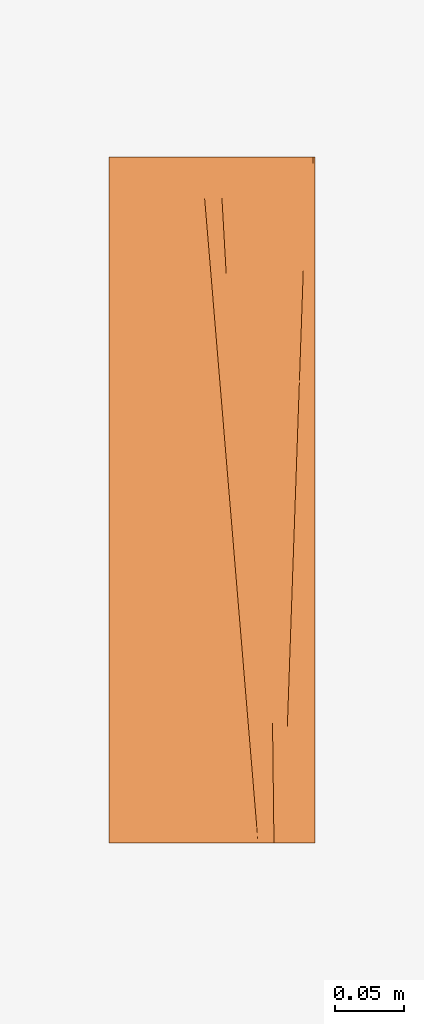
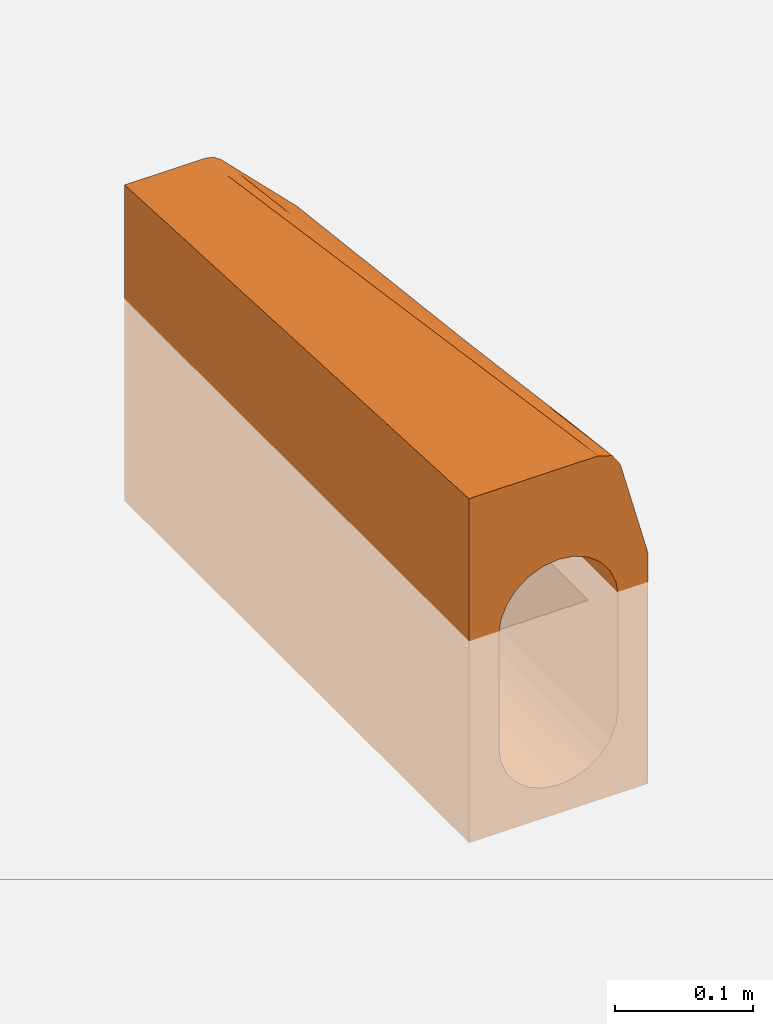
# One storey, part 2 of 2: 1 proxy.
"""IFC2X3 building model written with IfcOpenShell, lengths in millimetres."""

from ifc_helpers import new_model, entity, si_unit, converted_unit, direction, frame, origin, place, context, subcontext, project, spatial, face_set, surface_model, source, transform, mapped, material, element, save


model = new_model("IFC2X3")

# Units and contexts
model_context = context("Model", 3, precision=1e-06, world=origin(), true_north=direction((2.0, 6.12303176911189e-17, 1.0)))
context_of_model = context(None, 3, precision=1e-06, world=origin(), true_north=direction((2.0, 6.12303176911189e-17, 1.0)))
body_context = subcontext(model_context, "Body", "Model", "MODEL_VIEW")
ifc_project = project(units=[si_unit("LENGTHUNIT", "METRE", prefix="MILLI"), si_unit("AREAUNIT", "SQUARE_METRE", prefix="MILLI"), si_unit("VOLUMEUNIT", "CUBIC_METRE", prefix="MILLI"), converted_unit("PLANEANGLEUNIT", "DEGREE", entity("IfcRatioMeasure", 0.0174532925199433), si_unit("PLANEANGLEUNIT", "RADIAN"), dimensions=[0, 0, 0, 0, 0, 0, 0]), si_unit("TIMEUNIT", "SECOND")], contexts=[model_context, context_of_model])

# Site, building, storey
site_placement = place(None, origin())
site = spatial("IfcSite", under=ifc_project, at=site_placement, Name="Default", CompositionType="ELEMENT")
building_placement = place(site_placement, origin())
building = spatial("IfcBuilding", under=site, at=building_placement, CompositionType="ELEMENT")
storey_placement = place(building_placement, origin())
storey = spatial("IfcBuildingStorey", under=building, at=storey_placement, Name="Level 1", CompositionType="ELEMENT", Elevation=0.0)

# Proxy
ifc_material = material(Name="ACO Polymer Concrete.")
shared_shape = source(origin(), body_context, "Body", "SurfaceModel", [
    surface_model("IfcFaceBasedSurfaceModel", [(-75.0, 500.0, 100.0), (-7.87005768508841, 500.0, 100.0), (-0.599072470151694, 500.0, 98.5537111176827), (5.56497115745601, 500.0, 94.4350288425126), (69.4350288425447, 500.0, 30.5649711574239), (73.5537111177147, 500.0, 24.4009275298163), (75.0, 500.0, 17.1299423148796), (75.0, 500.0, -180.0), (-75.0, 500.0, -180.0), (-50.0, 500.0, -30.0), (-50.0, 500.0, -105.0), (-48.2962913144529, 500.0, -117.940952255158), (-43.3012701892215, 500.0, -130.0), (-35.355339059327, 500.0, -140.355339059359), (-25.0, 500.0, -148.301270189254), (-12.9409522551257, 500.0, -153.296291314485), (0.0, 500.0, -155.0), (12.9409522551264, 500.0, -153.296291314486), (25.0, 500.0, -148.301270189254), (35.3553390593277, 500.0, -140.35533905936), (43.3012701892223, 500.0, -130.0), (48.2962913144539, 500.0, -117.940952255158), (50.0, 500.0, -105.0), (50.0, 500.0, -30.0), (48.2962913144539, 500.0, -17.0590477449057), (43.3012701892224, 500.0, -5.0), (35.3553390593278, 500.0, 5.35533905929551), (25.0, 500.0, 13.30127018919), (12.9409522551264, 500.0, 18.2962913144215), (0.0, 500.0, 20.0), (-12.9409522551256, 500.0, 18.2962913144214), (-25.0, 500.0, 13.3012701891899), (-35.3553390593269, 500.0, 5.35533905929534), (-43.3012701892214, 500.0, -5.0), (-48.2962913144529, 500.0, -17.059047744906), (-75.0, 0.0, 125.0), (-75.0, 0.0, -180.0), (75.0, 0.0, -180.0), (75.0, 0.0, 25.0), (51.9784586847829, 0.0, 110.917561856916), (45.1923351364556, 0.0, 121.073713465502), (33.6258679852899, 0.0, 125.0), (-50.0, 0.0, -105.0), (-50.0, 0.0, -5.0), (-48.2962913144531, 0.0, 7.94095225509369), (-43.3012701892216, 0.0, 20.0), (-35.3553390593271, 0.0, 30.3553390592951), (-25.0, 0.0, 38.3012701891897), (-12.9409522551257, 0.0, 43.2962913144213), (0.0, 0.0, 45.0), (12.9409522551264, 0.0, 43.2962913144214), (25.0, 0.0, 38.30127018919), (35.3553390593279, 0.0, 30.3553390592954), (43.3012701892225, 0.0, 20.0), (48.296291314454, 0.0, 7.94095225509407), (50.0, 0.0, -5.0), (50.0, 0.0, -105.0), (48.2962913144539, 0.0, -117.940952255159), (43.3012701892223, 0.0, -130.0), (35.3553390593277, 0.0, -140.35533905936), (25.0, 0.0, -148.301270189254), (12.9409522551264, 0.0, -153.296291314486), (0.0, 0.0, -155.0), (-12.9409522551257, 0.0, -153.296291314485), (-25.0, 0.0, -148.301270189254), (-35.3553390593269, 0.0, -140.355339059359), (-43.3012701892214, 0.0, -130.0), (-48.2962913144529, 0.0, -117.940952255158), (72.1242358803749, 165.941052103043, 33.7805507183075), (71.6700348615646, 97.6032902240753, 36.2727995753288), (75.0000005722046, 178.520117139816, 22.1900722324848), (64.6683728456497, 246.533353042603, 58.9901220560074), (66.3287184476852, 187.299341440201, 54.9315080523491), (68.7004168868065, 258.890102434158, 45.4053862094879), (73.7525658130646, 399.537531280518, 25.1355796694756), (75.0000005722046, 419.630018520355, 18.3949754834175), (74.2768570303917, 500.000003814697, 20.7654339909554), (60.0771105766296, 63.8706926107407, 79.5689531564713), (60.9731587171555, 0.0, 77.3488942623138), (64.0238582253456, 69.4773543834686, 65.0810384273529), (69.8112411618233, 204.403856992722, 42.1639870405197), (72.468827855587, 299.075076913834, 31.1411860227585), (63.8230937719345, 339.260069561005, 56.3967120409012), (68.2996101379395, 379.44504404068, 42.8469985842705), (66.629058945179, 419.630018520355, 43.4808443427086), (62.6469936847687, 129.445060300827, 68.9980140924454), (57.0106053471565, 0.0, 92.1373357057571), (54.7844285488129, 80.3699762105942, 98.0016943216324), (71.1818197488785, 379.44504404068, 34.7299931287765), (67.9455392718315, 313.97389497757, 46.5610751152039), (75.0000005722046, 258.890084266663, 20.9250399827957), (75.0000005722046, 339.260069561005, 19.6600077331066), (68.2624712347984, 58.5613191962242, 49.5159229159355), (69.025374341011, 129.445051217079, 45.9074494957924), (58.2111543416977, 178.520117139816, 82.2284565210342), (69.9678540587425, 0.0, 43.7802219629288), (64.9357075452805, 0.0, 62.5604437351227), (75.0000005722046, 80.3699671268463, 23.7349679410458), (72.5563543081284, 234.208705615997, 31.3918247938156), (71.4943688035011, 500.000003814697, 27.4829495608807), (61.0171240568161, 258.890084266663, 69.3125842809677), (65.2108406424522, 307.994935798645, 54.7811175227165), (66.4849816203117, 415.503235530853, 44.1440396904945), (49.7160424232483, 376.74517250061, 66.6228229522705), (63.778651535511, 337.987109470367, 56.6012825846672), (41.2924695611, 253.490341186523, 91.3779707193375), (42.4751281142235, 173.548363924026, 100.786126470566), (48.4550365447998, 139.295703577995, 99.4188679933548), (52.7537430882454, 267.534396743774, 77.8214580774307), (33.1716761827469, 372.409463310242, 83.51711332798), (22.1698858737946, 376.74517250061, 93.2402026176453), (18.8441043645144, 500.000003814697, 81.1558929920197), (10.3070823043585, 415.503235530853, 99.6003158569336), (28.7838603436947, 278.568425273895, 99.3137054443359), (44.094401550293, 90.573913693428, 110.205754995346), (39.4090997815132, 0.0, 123.036857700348), (44.1395659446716, 500.000003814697, 55.8604348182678), (32.1232390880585, 500.000003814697, 67.876761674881), (56.1558973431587, 500.000003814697, 43.8441034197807), (57.8785529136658, 168.993554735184, 83.7594223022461), (48.5853974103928, 0.0, 115.995635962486), (54.9285058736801, 84.4967773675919, 97.3384898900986), (60.8285999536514, 253.490323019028, 70.1803547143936), (35.1780285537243, 209.753911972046, 102.434100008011), (37.7338409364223, 131.043918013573, 110.127171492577), (48.4593195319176, 66.6990083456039, 109.040491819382), (28.8837565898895, 84.4967773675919, 119.834718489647), (14.6574254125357, 337.987109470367, 104.338871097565), (19.399535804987, 253.490341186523, 109.504153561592), (24.1416473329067, 168.993554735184, 114.66943602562), (12.8779055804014, 250.000001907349, 112.500000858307), (19.9399529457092, 243.860987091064, 110.092789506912), (18.1430797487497, 275.878364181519, 108.135568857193), (-0.280629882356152, 408.552133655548, 104.572396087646), (10.869455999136, 405.482626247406, 100.212869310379), (8.98645013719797, 439.034757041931, 98.1618317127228), (23.3614306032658, 182.895740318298, 113.819596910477), (21.650692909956, 213.378363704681, 111.956193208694), (18.192268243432, 185.96524772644, 115.701740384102), (-5.34024850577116, 469.517380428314, 101.524135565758), (7.27571074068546, 469.517380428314, 96.2984280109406), (28.493650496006, 91.4478701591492, 119.409798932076), (23.5066320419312, 121.930493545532, 118.903479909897), (26.0364399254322, 91.4478701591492, 120.427605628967), (30.2043881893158, 60.9652467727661, 121.27319355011), (2.24917940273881, 378.069510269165, 106.096521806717), (12.7524612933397, 371.930495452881, 102.263906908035), (28.5662500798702, 60.9652467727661, 121.951740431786), (31.9151281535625, 30.4826233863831, 123.136597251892), (31.0960579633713, 30.4826233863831, 123.475866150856), (20.8494495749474, 153.947870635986, 117.302605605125), (7.56354234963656, 314.034756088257, 109.298261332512), (10.2207242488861, 282.017378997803, 110.899135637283), (16.3462076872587, 307.895741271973, 106.178348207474), (25.0721705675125, 152.413116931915, 115.682991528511), (15.5350869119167, 217.982624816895, 114.10086607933), (14.5493344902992, 339.913118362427, 104.221127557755), (4.90636101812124, 346.052133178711, 107.697396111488), (-2.8104392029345, 439.034757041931, 103.048261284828), (26.7829105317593, 121.930493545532, 117.546395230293), (-50.0000003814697, 375.000002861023, -23.7499992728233), (-50.0000003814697, 249.999983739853, -17.4999992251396), (-48.6523718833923, 312.500002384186, -9.09474374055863), (39.6676686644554, 384.735091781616, 6.2013151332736), (30.4380744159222, 345.794699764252, 17.3779295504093), (39.6676686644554, 250.000001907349, 12.9380683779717), (27.6222238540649, 250.000001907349, 24.1774849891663), (-49.2071935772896, 409.289152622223, -16.5958517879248), (-6.52631119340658, 115.264893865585, 38.809000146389), (-19.1341722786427, 154.20528588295, 33.4837120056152), (-15.8940925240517, 250.000001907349, 29.906516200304), (-30.4380721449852, 250.000001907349, 22.1676671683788), (-30.4380721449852, 384.735091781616, 15.4309122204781), (-39.6676686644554, 345.794699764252, 8.14833586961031), (-47.6270756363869, 104.727010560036, 4.98408667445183), (-39.6676686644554, 137.428648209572, 18.5666390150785), (-46.1939781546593, 202.880784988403, 3.99013162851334), (-30.4380721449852, 115.264902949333, 28.9044221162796), (-49.1930638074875, 187.500001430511, -5.42835007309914), (39.6676686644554, 115.264893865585, 19.6748255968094), (30.4380744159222, 154.20528588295, 26.9574002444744), (19.1341700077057, 384.735128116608, 21.9572217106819), (48.6304119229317, 400.554874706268, -13.4052216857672), (46.1939781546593, 345.794699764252, -3.15556513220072), (-19.1341722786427, 345.794699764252, 23.9042413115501), (-6.52631119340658, 384.735091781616, 25.3354879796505), (-45.694767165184, 301.359076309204, 0.229534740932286), (-46.1939781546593, 399.837367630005, -5.85769739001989), (19.1341700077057, 115.26487569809, 35.4307338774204), (6.52630721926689, 154.20528588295, 36.8619782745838), (-6.52631232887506, 250.000001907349, 32.0722429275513), (50.0000003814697, 124.999991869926, -11.2499991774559), (49.247906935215, 87.9436418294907, -0.757533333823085), (6.52630721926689, 345.794699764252, 27.2825075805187), (9.93856941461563, 250.000001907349, 31.5022945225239), (46.1939781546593, 154.20528588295, 6.42390556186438), (-41.5338247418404, 241.611669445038, 10.7571888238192), (49.0784223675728, 302.620245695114, -10.5754616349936), (46.9896236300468, 250.000001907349, -0.412721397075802), (19.1341677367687, 250.000001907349, 28.6939789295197), (49.1577234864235, 187.499983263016, -5.23616238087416), (-50.0000003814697, 125.000010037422, -11.2500003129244), (50.0000003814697, 249.999983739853, -17.4999992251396), (50.0000003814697, 375.000002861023, -23.7499992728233)], [face_set([[[0, 1, 2, 3, 4, 5, 6, 7, 8], [9, 10, 11, 12, 13, 14, 15, 16, 17, 18, 19, 20, 21, 22, 23, 24, 25, 26, 27, 28, 29, 30, 31, 32, 33, 34]], [[35, 36, 37, 38, 39, 40, 41], [42, 43, 44, 45, 46, 47, 48, 49, 50, 51, 52, 53, 54, 55, 56, 57, 58, 59, 60, 61, 62, 63, 64, 65, 66, 67]], [[0, 8, 36, 35]], [[8, 7, 37, 36]], [[7, 6, 38, 37]], [[68, 69, 70]], [[71, 72, 73]], [[74, 75, 76]], [[77, 78, 79]], [[80, 81, 73]], [[82, 83, 84]], [[71, 85, 72]], [[39, 86, 87]], [[88, 83, 89]], [[90, 91, 81]], [[92, 69, 93]], [[68, 93, 69]], [[94, 87, 85]], [[95, 92, 96]], [[95, 38, 97]], [[96, 92, 79]], [[77, 87, 86]], [[93, 80, 72]], [[69, 95, 97]], [[93, 72, 79]], [[93, 79, 92]], [[77, 79, 85]], [[95, 69, 92]], [[70, 69, 97]], [[70, 90, 98]], [[80, 93, 68]], [[88, 74, 5]], [[81, 80, 98]], [[73, 81, 88]], [[91, 74, 81]], [[88, 81, 74]], [[83, 99, 84]], [[80, 68, 98]], [[72, 80, 73]], [[75, 6, 76]], [[74, 76, 5]], [[100, 71, 101]], [[72, 85, 79]], [[89, 101, 71]], [[71, 94, 85]], [[94, 71, 100]], [[88, 5, 99]], [[99, 4, 84]], [[73, 89, 71]], [[99, 83, 88]], [[70, 98, 68]], [[90, 81, 98]], [[87, 77, 85]], [[74, 91, 75]], [[88, 89, 73]], [[101, 83, 82]], [[83, 101, 89]], [[100, 101, 82]], [[78, 77, 86]], [[78, 96, 79]], [[102, 103, 104]], [[105, 106, 107]], [[107, 108, 105]], [[105, 103, 109]], [[110, 111, 112]], [[113, 105, 109]], [[105, 108, 103]], [[40, 114, 115]], [[116, 117, 109]], [[103, 102, 118]], [[116, 109, 103]], [[102, 4, 118]], [[119, 108, 107]], [[120, 39, 121]], [[104, 103, 108]], [[108, 119, 122]], [[123, 124, 106]], [[121, 107, 125]], [[126, 41, 115]], [[107, 106, 114]], [[127, 110, 112]], [[113, 110, 127]], [[123, 128, 129]], [[123, 129, 124]], [[103, 118, 116]], [[114, 125, 107]], [[122, 104, 108]], [[123, 105, 113]], [[119, 107, 121]], [[114, 106, 124]], [[115, 114, 124]], [[125, 40, 120]], [[105, 123, 106]], [[113, 128, 123]], [[40, 125, 114]], [[121, 125, 120]], [[124, 129, 126]], [[126, 115, 124]], [[109, 117, 111]], [[111, 3, 112]], [[113, 109, 110]], [[111, 110, 109]], [[113, 127, 128]], [[130, 131, 132]], [[133, 134, 135]], [[136, 137, 138]], [[2, 139, 140]], [[141, 142, 143, 144]], [[134, 145, 146]], [[144, 143, 147]], [[147, 148, 144]], [[41, 148, 149]], [[150, 136, 138]], [[151, 152, 153]], [[2, 1, 139]], [[148, 147, 149]], [[150, 142, 154]], [[131, 155, 137]], [[153, 156, 151]], [[152, 130, 132]], [[146, 157, 156]], [[158, 140, 139]], [[140, 3, 2]], [[158, 135, 140]], [[142, 141, 159, 154]], [[135, 158, 133]], [[145, 134, 133]], [[136, 150, 154]], [[155, 131, 130]], [[155, 138, 137]], [[153, 152, 132]], [[157, 146, 145]], [[157, 151, 156]], [[1, 0, 35, 41]], [[42, 43, 9, 10]], [[160, 161, 162]], [[163, 164, 165]], [[166, 165, 164]], [[9, 160, 167]], [[48, 168, 169]], [[170, 171, 169]], [[171, 172, 173]], [[174, 175, 176]], [[177, 169, 171]], [[169, 47, 48]], [[162, 161, 178]], [[175, 174, 45]], [[179, 180, 52]], [[164, 181, 166]], [[182, 25, 183]], [[184, 170, 185]], [[172, 184, 31]], [[46, 47, 177]], [[175, 45, 46]], [[162, 186, 187]], [[29, 30, 185]], [[169, 168, 170]], [[50, 188, 189]], [[168, 189, 190]], [[30, 31, 184]], [[55, 191, 192]], [[178, 174, 176]], [[181, 193, 194]], [[163, 183, 25]], [[50, 51, 188]], [[25, 26, 163]], [[195, 165, 179]], [[173, 186, 196]], [[197, 183, 198]], [[181, 27, 28]], [[52, 180, 51]], [[27, 181, 164]], [[31, 32, 172]], [[49, 168, 48]], [[180, 166, 188]], [[167, 187, 34]], [[53, 179, 52]], [[27, 164, 26]], [[53, 54, 195]], [[28, 29, 193]], [[32, 33, 173]], [[194, 190, 189]], [[189, 49, 50]], [[194, 199, 181]], [[185, 193, 29]], [[191, 200, 192]], [[197, 182, 183]], [[195, 198, 165]], [[200, 197, 198]], [[177, 175, 46]], [[196, 171, 173]], [[201, 178, 161]], [[201, 43, 44]], [[33, 34, 187]], [[167, 160, 162]], [[169, 177, 47]], [[202, 200, 191]], [[24, 182, 23]], [[175, 177, 171]], [[173, 172, 32]], [[184, 172, 171]], [[184, 185, 30]], [[193, 185, 190]], [[189, 168, 49]], [[168, 190, 170]], [[193, 181, 28]], [[188, 166, 181, 199]], [[180, 188, 51]], [[188, 199, 194]], [[195, 179, 53]], [[180, 179, 165]], [[164, 163, 26]], [[183, 163, 165]], [[200, 202, 197]], [[192, 195, 54]], [[202, 203, 197]], [[203, 23, 182]], [[174, 201, 44]], [[162, 178, 176]], [[201, 174, 178]], [[45, 174, 44]], [[186, 162, 176]], [[173, 33, 187]], [[203, 182, 197]], [[25, 182, 24]], [[195, 192, 200]], [[55, 192, 54]], [[165, 198, 183]], [[200, 198, 195]], [[196, 176, 175]], [[173, 187, 186]], [[176, 196, 186]], [[171, 196, 175]], [[185, 170, 190]], [[171, 170, 184]], [[165, 166, 180]], [[190, 194, 193]], [[188, 194, 189]], [[187, 167, 162]], [[9, 167, 34]], [[55, 56, 22, 23]], [[20, 21, 57, 58]], [[19, 20, 58, 59]], [[17, 18, 60, 61]], [[18, 19, 59, 60]], [[16, 17, 61, 62]], [[21, 22, 56, 57]], [[14, 15, 63, 64]], [[13, 14, 64, 65]], [[11, 12, 66, 67]], [[12, 13, 65, 66]], [[10, 11, 67, 42]], [[62, 63, 15, 16]]])]),
])
proxy_placement = place(storey_placement, frame((-13460.350578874, -1522.05906174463, 0.0)))
element("IfcBuildingElementProxy", 1, at=proxy_placement, inside=storey, material=ifc_material, Name="Civil-Drainage-Channel-ACO-KerbDrain-SP280:7941 - LH  transition kerb - 500mm LG:7941 - LH  transition kerb - 500mm LG", ObjectType="7941 - LH  transition kerb - 500mm LG", CompositionType="ELEMENT", context=body_context, shape_type="MappedRepresentation", body=[
    mapped(shared_shape, transform((0.0, 0.0, 0.0), scale=1.0)),
])

save(model, "model.ifc")
